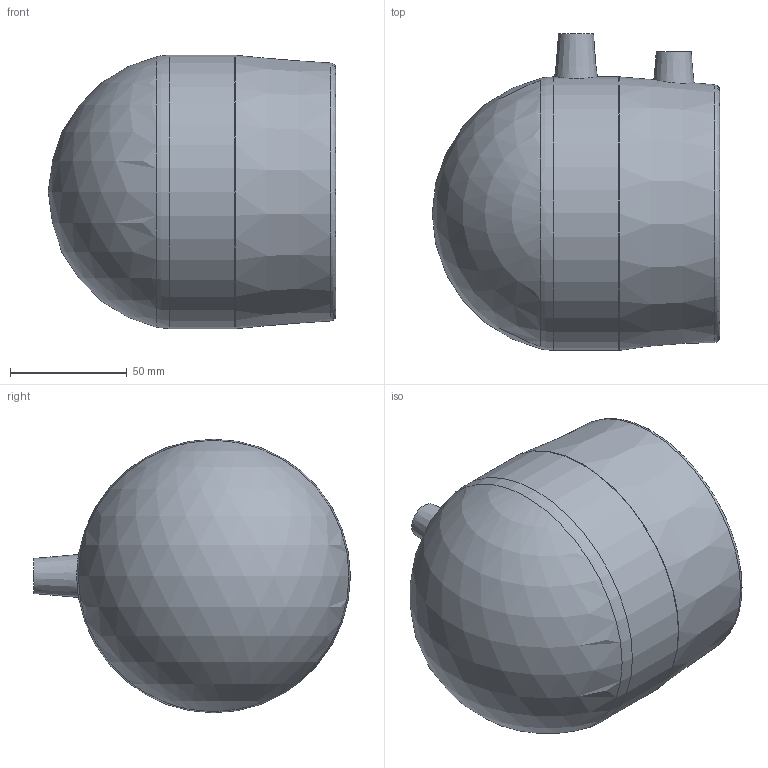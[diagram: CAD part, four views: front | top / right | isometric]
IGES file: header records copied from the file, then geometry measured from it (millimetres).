
Global section: file name: 498304090.ipt; native system: Autodesk Inventor 2015; preprocessor: unknown; author: Кирилл,,11,0; organization: 20170630.203301; date: 20171106.094441; units: millimetre
Bounding box: 123 x 135.5 x 117 mm (x, y, z)
Volume: 489969.8 mm3; surface area: 82395.1 mm2
Topology: 1 solids, 1 shells, 49 faces, 123 edges, 82 vertices
Faces by surface type: plane 28, revolution 14, cylinder 3, cone 3, sphere 1
Full cylindrical faces by diameter (mm): 4 x2, 117 x1
